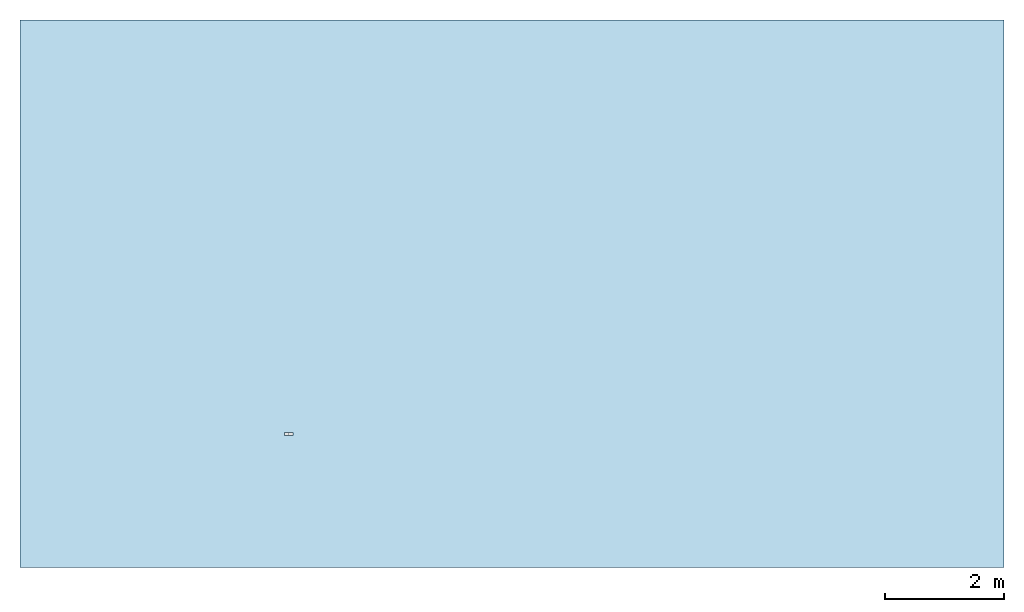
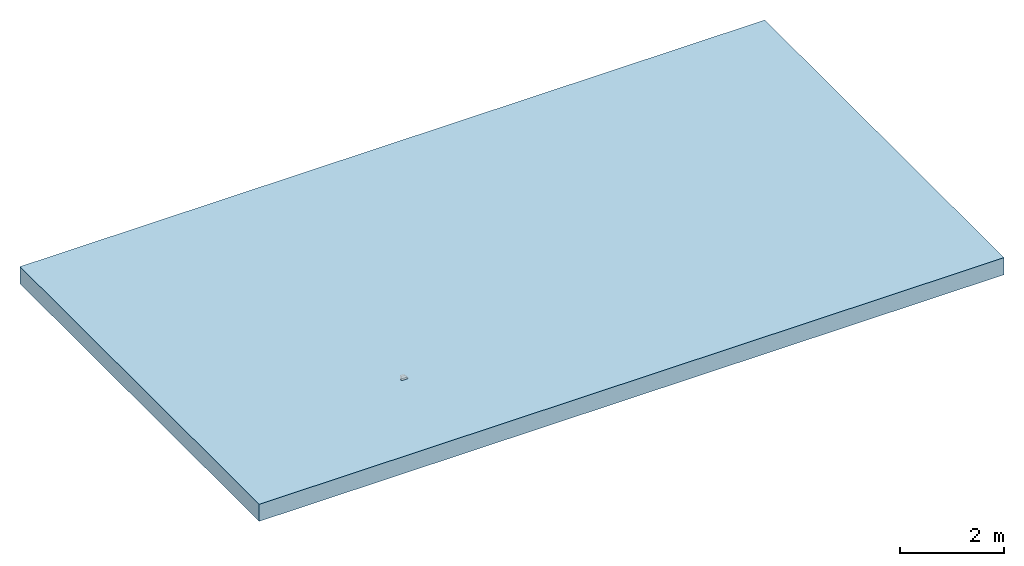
# One storey, part 1 of 2: 1 slab, 3 openings.
"""IFC2X3 building model written with IfcOpenShell, lengths in millimetres."""

import ifcopenshell
import ifcopenshell.guid

model = None  # the IFC model being written
_history = None  # IfcOwnerHistory: only IFC2X3 demands one
_inside = {}  # id of a spatial element -> (the spatial element, [elements in it])
_under = {}  # id of a project, library or spatial element -> (it, [spatial elements below it])
_declared = {}  # id of a project -> (the project, [libraries it declares])
_typed = {}  # id of a type object -> (the type object, [elements of that type])
_made_of = {}  # id of a material, layer set ... -> (it, [elements and type objects made of it])


def new_model(schema):
    """Start an empty IFC model of exactly this schema.

    Asked for "IFC4X3", IfcOpenShell would pick the latest addendum, in which some entities
    have other attributes; the version numbers below select the first issue.
    IFC2X3 requires an IfcOwnerHistory on every rooted entity: one is made here for all.
    """
    global model, _history
    if schema == "IFC4X3":
        model = ifcopenshell.file(schema_version=(4, 3, 0, 0))
    else:
        model = ifcopenshell.file(schema=schema)
    _inside.clear()
    _under.clear()
    _declared.clear()
    _typed.clear()
    _made_of.clear()
    _history = None
    if model.schema == "IFC2X3":
        org = make("IfcOrganization", Name="unknown")
        user = make(
            "IfcPersonAndOrganization",
            ThePerson=make("IfcPerson", FamilyName="unknown"),
            TheOrganization=org,
        )
        app = make(
            "IfcApplication",
            ApplicationDeveloper=org,
            Version="unknown",
            ApplicationFullName="unknown",
            ApplicationIdentifier="unknown",
        )
        _history = make(
            "IfcOwnerHistory",
            OwningUser=user,
            OwningApplication=app,
            ChangeAction="ADDED",
            CreationDate=0,
        )
    return model


def make(cls, **values):
    """One entity of the class cls with the attributes given. An attribute that is None is left unset."""
    return model.create_entity(
        cls, **{name: value for name, value in values.items() if value is not None}
    )


def entity(cls, *values):
    """Any entity or typed value of the class cls, its attributes in the order of the schema. None: left unset."""
    e = model.create_entity(cls)
    for i, value in enumerate(values):
        if value is not None:
            e[i] = value
    return e


def rooted(cls, **values):
    """An entity with a GlobalId (a new one), such as an element, a storey or a relation."""
    return make(cls, GlobalId=ifcopenshell.guid.new(), OwnerHistory=_history, **values)


def si_unit(unit_type, name, prefix=None):
    """IfcSIUnit, for example si_unit("LENGTHUNIT", "METRE", prefix="MILLI")."""
    return make("IfcSIUnit", UnitType=unit_type, Prefix=prefix, Name=name)


def converted_unit(unit_type, name, factor, base, dimensions=None, offset=None):
    """IfcConversionBasedUnit, such as the inch: factor (a typed value) times the base unit."""
    return make(
        "IfcConversionBasedUnit"
        if offset is None
        else "IfcConversionBasedUnitWithOffset",
        ConversionOffset=offset,
        Dimensions=None
        if dimensions is None
        else entity("IfcDimensionalExponents", *dimensions),
        UnitType=unit_type,
        Name=name,
        ConversionFactor=make(
            "IfcMeasureWithUnit", ValueComponent=factor, UnitComponent=base
        ),
    )


def assignment(units):
    """IfcUnitAssignment: the units of a project."""
    return None if units is None else make("IfcUnitAssignment", Units=units)


def point(xyz):
    """IfcCartesianPoint."""
    return None if xyz is None else make("IfcCartesianPoint", Coordinates=xyz)


def direction(xyz):
    """IfcDirection."""
    return None if xyz is None else make("IfcDirection", DirectionRatios=xyz)


def frame(location, z_axis=None, x_axis=None):
    """IfcAxis2Placement3D, a coordinate frame: its origin and axes. An axis left out is left unset."""
    return make(
        "IfcAxis2Placement3D",
        Location=point(location),
        Axis=direction(z_axis),
        RefDirection=direction(x_axis),
    )


def frame_2d(location, x_axis=None):
    """IfcAxis2Placement2D, a coordinate frame in the plane: its origin and x axis."""
    return make(
        "IfcAxis2Placement2D", Location=point(location), RefDirection=direction(x_axis)
    )


def origin():
    """The frame at (0, 0, 0) with its axes left unset."""
    return frame((0.0, 0.0, 0.0))


def origin_2d_with_axis():
    """The frame at (0, 0) in the plane with the x axis (1, 0) written out."""
    return frame_2d((0.0, 0.0), x_axis=(1.0, 0.0))


def place(relative_to, where):
    """IfcLocalPlacement: puts the frame where relative to a parent placement (None: the world)."""
    return make(
        "IfcLocalPlacement", PlacementRelTo=relative_to, RelativePlacement=where
    )


def context(
    kind, dimensions, precision=None, world=None, true_north=None, identifier=None
):
    """IfcGeometricRepresentationContext, for example the 3D "Model" context."""
    return make(
        "IfcGeometricRepresentationContext",
        ContextIdentifier=identifier,
        ContextType=kind,
        CoordinateSpaceDimension=dimensions,
        Precision=precision,
        WorldCoordinateSystem=world,
        TrueNorth=true_north,
    )


def subcontext(parent, identifier, kind, view, scale=None):
    """IfcGeometricRepresentationSubContext, for example "Body" below "Model"."""
    return make(
        "IfcGeometricRepresentationSubContext",
        ContextIdentifier=identifier,
        ContextType=kind,
        ParentContext=parent,
        TargetScale=scale,
        TargetView=view,
    )


def project(units=None, contexts=None):
    """IfcProject with its units and contexts."""
    return rooted(
        "IfcProject",
        Name="project",
        RepresentationContexts=contexts,
        UnitsInContext=assignment(units),
    )


def spatial(cls, under=None, at=None, **own):
    """A site, building, storey or space (cls), placed at a placement, below another one or the project."""
    s = rooted(cls, ObjectPlacement=at, **own)
    if under is not None:
        _under.setdefault(under.id(), (under, []))[1].append(s)
    return s


def profile(cls, at=None, kind="AREA", **sizes):
    """A parametric profile (cls). Its sizes go by their IFC names, for example OverallWidth=200.0."""
    return make(cls, ProfileType=kind, Position=at, **sizes)


def rectangle(**sizes):
    """IfcRectangleProfileDef."""
    return profile("IfcRectangleProfileDef", **sizes)


def circle(**sizes):
    """IfcCircleProfileDef."""
    return profile("IfcCircleProfileDef", **sizes)


def extrude(swept, where, along, depth):
    """IfcExtrudedAreaSolid: the profile swept, set in the frame where, extruded along a direction by depth."""
    return make(
        "IfcExtrudedAreaSolid",
        SweptArea=swept,
        Position=where,
        ExtrudedDirection=direction(along),
        Depth=depth,
    )


def shape(context_of_items, identifier, shape_type, items):
    """IfcShapeRepresentation: the items that make up one representation, for example the "Body"."""
    return make(
        "IfcShapeRepresentation",
        ContextOfItems=context_of_items,
        RepresentationIdentifier=identifier,
        RepresentationType=shape_type,
        Items=items,
    )


def material(Name=None, Category=None):
    """IfcMaterial."""
    return make("IfcMaterial", Name=Name, Category=Category)


def layer(
    of_material, thickness, ventilated=None, Name=None, Category=None, Priority=None
):
    """IfcMaterialLayer: one layer of a wall or slab, of a material (None: an air gap)."""
    return make(
        "IfcMaterialLayer",
        Material=of_material,
        LayerThickness=thickness,
        IsVentilated=ventilated,
        Name=Name,
        Category=Category,
        Priority=Priority,
    )


def layer_set(layers, Name=None):
    """IfcMaterialLayerSet."""
    return make("IfcMaterialLayerSet", MaterialLayers=layers, LayerSetName=Name)


def layer_usage(for_layer_set, set_direction, sense, offset, extent=None):
    """IfcMaterialLayerSetUsage: how a layer set lies in its element."""
    return make(
        "IfcMaterialLayerSetUsage",
        ForLayerSet=for_layer_set,
        LayerSetDirection=set_direction,
        DirectionSense=sense,
        OffsetFromReferenceLine=offset,
        ReferenceExtent=extent,
    )


def made_of(thing, what):
    """Note that an element or type object is made of a material, layer set ...; save() writes the relation."""
    if what is not None:
        _made_of.setdefault(what.id(), (what, []))[1].append(thing)
    return thing


def element(
    cls,
    number,
    at=None,
    inside=None,
    cuts=None,
    type_object=None,
    material=None,
    context=None,
    identifier="Body",
    shape_type=None,
    held_by="IfcProductDefinitionShape",
    body=None,
    shapes=None,
    **own,
):
    """One element of the class cls, such as IfcWall. Its Tag is "e" and its number.

    at: its placement. inside: the storey or other place that contains it. cuts: it is an
    opening in that element (IfcRelVoidsElement). A single representation is given by context,
    identifier, shape_type and body (its items); several are given by shapes. held_by: the class
    of the entity that holds the representations. save() writes the other relations.
    """
    e = rooted(cls, Tag="e%d" % number, ObjectPlacement=at, **own)
    if body is not None:
        shapes = [shape(context, identifier, shape_type, body)]
    if shapes is not None:
        e.Representation = make(held_by, Representations=shapes)
    if inside is not None:
        _inside.setdefault(inside.id(), (inside, []))[1].append(e)
    if cuts is not None:
        rooted(
            "IfcRelVoidsElement", RelatingBuildingElement=cuts, RelatedOpeningElement=e
        )
    if type_object is not None:
        _typed.setdefault(type_object.id(), (type_object, []))[1].append(e)
    return made_of(e, material)


def aggregate(whole, parts):
    """IfcRelAggregates: a whole, such as a stair, and the parts it consists of."""
    return rooted("IfcRelAggregates", RelatingObject=whole, RelatedObjects=parts)


def save(model, path):
    """Write the relations noted so far, then the file.

    IfcRelAggregates (storeys below a building ...), IfcRelContainedInSpatialStructure (elements
    in a storey), IfcRelDefinesByType, IfcRelAssociatesMaterial and IfcRelDeclares: one each for
    every whole, place, type object, material and project.
    """
    for whole, parts in _under.values():
        aggregate(whole, parts)
    for where, things in _inside.values():
        rooted(
            "IfcRelContainedInSpatialStructure",
            RelatedElements=things,
            RelatingStructure=where,
        )
    for kind, things in _typed.values():
        rooted("IfcRelDefinesByType", RelatedObjects=things, RelatingType=kind)
    for what, things in _made_of.values():
        rooted("IfcRelAssociatesMaterial", RelatedObjects=things, RelatingMaterial=what)
    for by, libraries in _declared.values():
        rooted("IfcRelDeclares", RelatingContext=by, RelatedDefinitions=libraries)
    model.write(path)


model = new_model("IFC2X3")

# Units and contexts
model_context = context("Model", 3, precision=1e-06, world=origin(), true_north=direction((2.0, 6.12303176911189e-17, 1.0)))
context_of_model = context(None, 3, precision=1e-06, world=origin(), true_north=direction((2.0, 6.12303176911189e-17, 1.0)))
body_context = subcontext(model_context, "Body", "Model", "MODEL_VIEW")
ifc_project = project(units=[si_unit("LENGTHUNIT", "METRE", prefix="MILLI"), si_unit("AREAUNIT", "SQUARE_METRE", prefix="MILLI"), si_unit("VOLUMEUNIT", "CUBIC_METRE", prefix="MILLI"), converted_unit("PLANEANGLEUNIT", "DEGREE", entity("IfcRatioMeasure", 0.0174532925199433), si_unit("PLANEANGLEUNIT", "RADIAN"), dimensions=[0, 0, 0, 0, 0, 0, 0]), si_unit("TIMEUNIT", "SECOND")], contexts=[model_context, context_of_model])

# Site, building, storey
site_placement = place(None, origin())
site = spatial("IfcSite", under=ifc_project, at=site_placement, Name="Default", CompositionType="ELEMENT")
building_placement = place(site_placement, origin())
building = spatial("IfcBuilding", under=site, at=building_placement, CompositionType="ELEMENT")
storey_placement = place(building_placement, origin())
storey = spatial("IfcBuildingStorey", under=building, at=storey_placement, Name="Level 1", CompositionType="ELEMENT", Elevation=0.0)

# Slab, openings
ifc_material = material(Name="Plant")
ifc_layer = layer(ifc_material, 400.0)
ifc_layer_set = layer_set([ifc_layer], Name="Floor:Generic Floor - 400mm")
ifc_layer_usage = layer_usage(ifc_layer_set, "AXIS3", "POSITIVE", 0.0)
slab_placement = place(storey_placement, frame((-17967.0691536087, -3738.31688706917, -400.0)))
slab = element("IfcSlab", 1, at=slab_placement, inside=storey, material=ifc_layer_usage, Name="Floor:Generic Floor - 400mm", ObjectType="Floor:Generic Floor - 400mm", PredefinedType="FLOOR", context=body_context, shape_type="SweptSolid", body=[
    extrude(rectangle(XDim=9180.0, YDim=16500.0, at=frame_2d((0.0, 0.0), x_axis=(0.0, -1.0))), frame((8250.0, 4590.0, 400.0), z_axis=(0.0, 0.0, -1.0), x_axis=(-1.0, 0.0, 0.0)), (0.0, 0.0, 1.0), 400.0),
])
opening_1_placement = place(slab_placement, origin())
element("IfcOpeningElement", 2, at=opening_1_placement, cuts=slab, ObjectType="Recess", context=body_context, shape_type="SweptSolid", body=[
    extrude(circle(Radius=55.0, at=origin_2d_with_axis()), frame((4506.30407301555, 2266.25782532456, -475.0), z_axis=(0.0, 1.0, 0.0), x_axis=(1.0, 0.0, 0.0)), (0.0, 0.0, 1.0), 50.0),
])
opening_2_placement = place(slab_placement, origin())
element("IfcOpeningElement", 3, at=opening_2_placement, cuts=slab, ObjectType="Recess", context=body_context, shape_type="SweptSolid", body=[
    extrude(rectangle(XDim=280.350941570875, YDim=1.99999999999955, at=origin_2d_with_axis()), frame((4432.71857473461, 2466.43329610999, -1754.0), z_axis=(0.0, 0.0, 1.0), x_axis=(0.0, 1.0, 0.0)), (0.0, 0.0, 1.0), 279.000000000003),
])
opening_3_placement = place(slab_placement, origin())
element("IfcOpeningElement", 4, at=opening_3_placement, cuts=slab, ObjectType="Recess", context=body_context, shape_type="SweptSolid", body=[
    extrude(rectangle(XDim=149.999999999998, YDim=50.0, at=origin_2d_with_axis()), frame((4506.71857473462, 2241.25782532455, 20.0), z_axis=(0.0, 0.0, 1.0), x_axis=(-1.0, 0.0, 0.0)), (0.0, 0.0, 1.0), 380.0),
])

save(model, "model.ifc")
